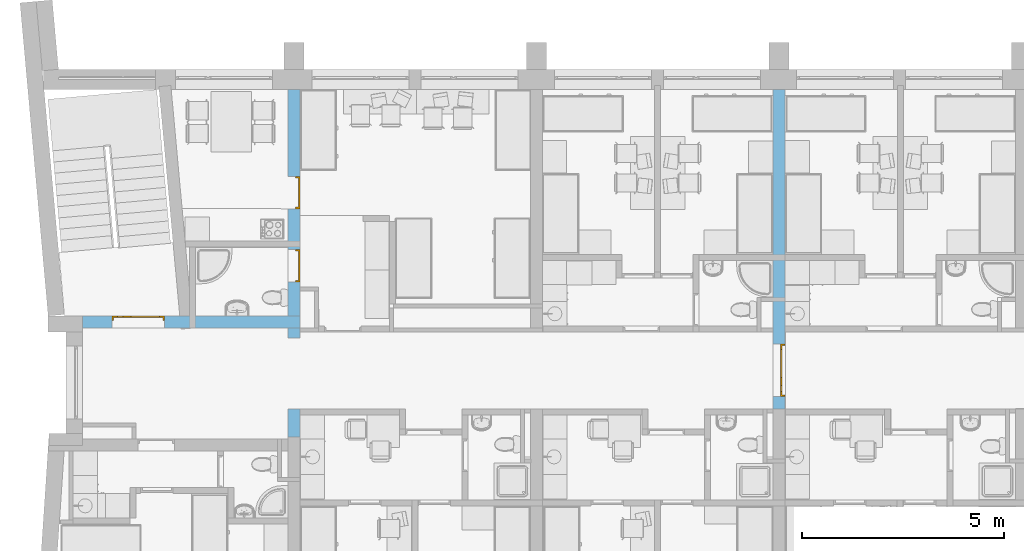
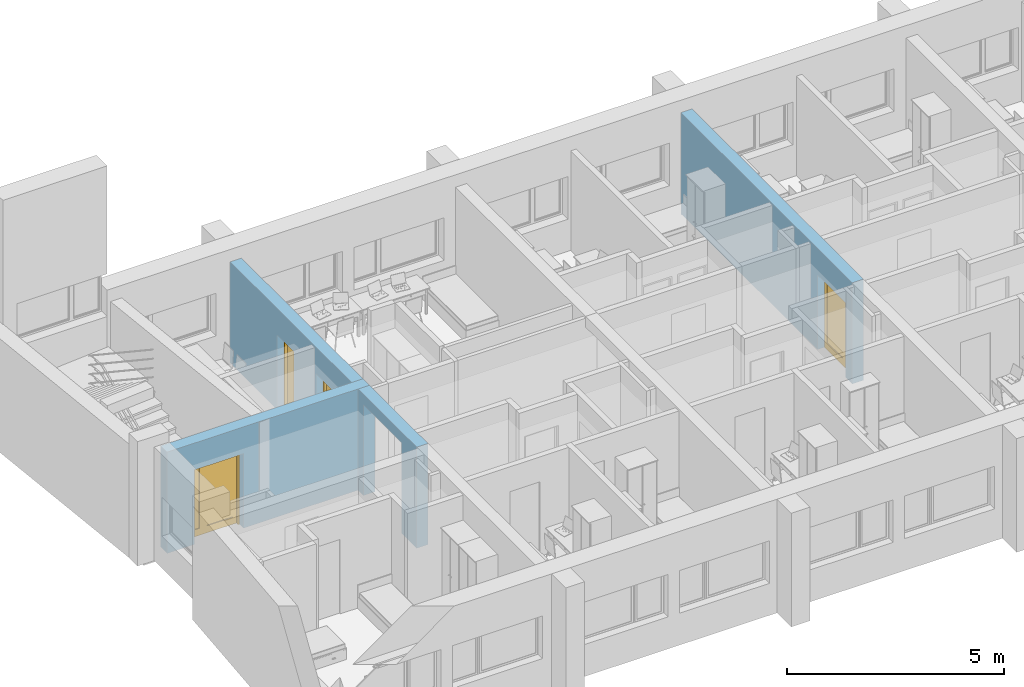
# One storey, part 22 of 165: 4 doors, 5 openings, plus 3 elements that do not belong to this part.
"""IFC2X3 building model written with IfcOpenShell, lengths in millimetres."""

from ifc_helpers import new_model, entity, si_unit, converted_unit, money_unit, direction, frame, origin_with_axes, place, context, subcontext, project, spatial, polyline, outline, extrude, open_shell, faceted_brep, surface_model, material, material_list, layer, layer_set, layer_usage, type_object, element, fill, save


model = new_model("IFC2X3")

# Units and contexts
model_context = context("Model", 3, precision=1e-05, world=origin_with_axes(), true_north=direction((0.0, 1.0)))
body_context = subcontext(model_context, "Body", "Model", "MODEL_VIEW")
ifc_project = project(units=[si_unit("LENGTHUNIT", "METRE", prefix="MILLI"), si_unit("AREAUNIT", "SQUARE_METRE"), si_unit("VOLUMEUNIT", "CUBIC_METRE"), converted_unit("PLANEANGLEUNIT", "DEGREE", entity("IfcPlaneAngleMeasure", 0.0174532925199), si_unit("PLANEANGLEUNIT", "RADIAN"), dimensions=[0, 0, 0, 0, 0, 0, 0]), si_unit("SOLIDANGLEUNIT", "STERADIAN"), money_unit("USD"), converted_unit("TIMEUNIT", "Year", entity("IfcTimeMeasure", 31556926.0), si_unit("TIMEUNIT", "SECOND"), dimensions=[0, 0, 0, 0, 0, 0, 0]), si_unit("MASSUNIT", "GRAM"), si_unit("THERMODYNAMICTEMPERATUREUNIT", "DEGREE_CELSIUS"), si_unit("LUMINOUSINTENSITYUNIT", "LUMEN")], contexts=[model_context])

# Site, building, storey
site_placement = place(None, origin_with_axes())
site = spatial("IfcSite", under=ifc_project, at=site_placement, Name="Site", CompositionType="ELEMENT")
building_placement = place(site_placement, origin_with_axes())
building = spatial("IfcBuilding", under=site, at=building_placement, Name="Building", CompositionType="ELEMENT")
storey_placement = place(building_placement, frame((0.0, 0.0, 6300.0), z_axis=(0.0, 0.0, 1.0), x_axis=(1.0, 0.0, 0.0)))
storey = spatial("IfcBuildingStorey", under=building, at=storey_placement, Name="4KORRUS", CompositionType="ELEMENT", Elevation=6300.0)

# Wall, opening, door
ifc_material_1 = material(Name="Olemasolevad seinad tellis, uus viimistlus")
ifc_layer = layer(ifc_material_1, 300.0, ventilated="UNKNOWN")
ifc_layer_set = layer_set([ifc_layer], Name="Olemasolevad seinad tellis, uus viimistlus  300")
ifc_layer_usage_1 = layer_usage(ifc_layer_set, "AXIS2", "POSITIVE", 0.0)
wall_type = type_object("IfcWallType", Name="Olemasolevad seinad tellis, uus viimistlus  300", PredefinedType="NOTDEFINED")
wall_1_placement = place(storey_placement, frame((-53377.938157, -11039.6041088, 0.0), z_axis=(0.0, 0.0, 1.0), x_axis=(1.0, 0.0, 0.0)))
wall_1 = element("IfcWallStandardCase", 1, at=wall_1_placement, inside=storey, type_object=wall_type, material=ifc_layer_usage_1, Name="KS1", ObjectType="KS1", context=body_context, shape_type="SweptSolid", body=[
    extrude(outline(polyline([(0.0, 0.0), (5387.64145368, 0.0), (5387.64145368, 300.0), (0.0, 300.0), (0.0, 0.0)])), origin_with_axes(), (0.0, 0.0, 1.0), 2850.0),
])
opening_1_placement = place(wall_1_placement, frame((1386.20809059, 0.0, 0.0), z_axis=(0.0, 0.0, 1.0), x_axis=(1.0, 0.0, 0.0)))
opening_1 = element("IfcOpeningElement", 2, at=opening_1_placement, cuts=wall_1, Name="SU4-2", context=body_context, shape_type="SweptSolid", body=[
    extrude(outline(polyline([(-650.0, -2100.0), (650.0, -2100.0), (650.0, 0.0), (-650.0, 0.0), (-650.0, -2100.0)])), frame((0.0, -300.0, 0.0), z_axis=(0.0, 1.0, 0.0), x_axis=(1.0, 0.0, 0.0)), (0.0, 0.0, 1.0), 900.0),
])
ifc_material_2 = material(Name="Background")
ifc_material_list = material_list([ifc_material_2])
door_style_1 = type_object("IfcDoorStyle", Name="Double Door Asymmetric 19", ConstructionType="NOTDEFINED", OperationType="DOUBLE_DOOR_SINGLE_SWING", ParameterTakesPrecedence=False, Sizeable=False)
door_1_placement = place(opening_1_placement, frame((-650.0, 0.0, 0.0), z_axis=(0.0, 0.0, 1.0), x_axis=(1.0, 0.0, 0.0)))
door_1 = element("IfcDoor", 3, at=door_1_placement, inside=storey, type_object=door_style_1, material=ifc_material_list, Name="SU4-2", ObjectType="Trepkoja uks", OverallHeight=2100.0, OverallWidth=1300.0, context=body_context, shape_type="SurfaceModel", body=[
    faceted_brep([(40.0, 260.0, 0.0), (40.0, 260.0, 2060.0), (40.0, 185.0, 2060.0), (40.0, 185.0, 0.0), (28.0, 260.0, 2060.0), (28.0, 260.0, 0.0), (28.0, 300.0, 2060.0), (0.0, 300.0, 2060.0), (0.0, 185.0, 2060.0), (0.0, 185.0, 0.0), (0.0, 300.0, 0.0), (28.0, 300.0, 0.0)], [[[0, 1, 2, 3]], [[4, 1, 0, 5]], [[4, 6, 7, 8, 2, 1]], [[2, 8, 9, 3]], [[5, 0, 3, 9, 10, 11]], [[6, 4, 5, 11]], [[6, 11, 10, 7]], [[9, 8, 7, 10]]]),
    faceted_brep([(1272.0, 260.0, 2060.0), (1260.0, 260.0, 2060.0), (1260.0, 185.0, 2060.0), (1300.0, 185.0, 2060.0), (1300.0, 300.0, 2060.0), (1272.0, 300.0, 2060.0), (1272.0, 260.0, 0.0), (1260.0, 260.0, 0.0), (1260.0, 185.0, 0.0), (1300.0, 185.0, 0.0), (1300.0, 300.0, 0.0), (1272.0, 300.0, 0.0)], [[[0, 1, 2, 3, 4, 5]], [[1, 0, 6, 7]], [[1, 7, 8, 2]], [[2, 8, 9, 3]], [[3, 9, 10, 4]], [[11, 5, 4, 10]], [[0, 5, 11, 6]], [[6, 11, 10, 9, 8, 7]]]),
    faceted_brep([(28.0, 300.0, 2072.0), (28.0, 300.0, 2060.0), (0.0, 300.0, 2060.0), (0.0, 300.0, 2100.0), (1300.0, 300.0, 2100.0), (1300.0, 300.0, 2060.0), (1272.0, 300.0, 2060.0), (1272.0, 300.0, 2072.0), (28.0, 260.0, 2072.0), (28.0, 260.0, 2060.0), (40.0, 260.0, 2060.0), (40.0, 185.0, 2060.0), (0.0, 185.0, 2060.0), (0.0, 185.0, 2100.0), (1300.0, 185.0, 2100.0), (1300.0, 185.0, 2060.0), (1272.0, 260.0, 2060.0), (1260.0, 185.0, 2060.0), (1260.0, 260.0, 2060.0), (1272.0, 260.0, 2072.0)], [[[0, 1, 2, 3, 4, 5, 6, 7]], [[1, 0, 8, 9]], [[9, 10, 11, 12, 2, 1]], [[12, 13, 3, 2]], [[13, 14, 4, 3]], [[14, 15, 5, 4]], [[16, 6, 5, 15, 17, 18]], [[7, 6, 16, 19]], [[0, 7, 19, 8]], [[16, 18, 10, 9, 8, 19]], [[10, 18, 17, 11]], [[15, 14, 13, 12, 11, 17]]]),
    faceted_brep([(1272.0, 300.0, 200.0), (1272.0, 260.0, 200.0), (1172.0, 260.0, 200.0), (1172.0, 300.0, 200.0), (1272.0, 300.0, 1972.0), (1272.0, 260.0, 1972.0), (1172.0, 260.0, 1972.0), (1172.0, 300.0, 1972.0)], [[[0, 1, 2, 3]], [[4, 5, 1, 0]], [[1, 5, 6, 2]], [[3, 2, 6, 7]], [[0, 3, 7, 4]], [[7, 6, 5, 4]]]),
    faceted_brep([(372.0, 300.0, 200.0), (372.0, 260.0, 200.0), (372.0, 260.0, 1972.0), (372.0, 300.0, 1972.0), (472.0, 300.0, 200.0), (472.0, 260.0, 200.0), (472.0, 260.0, 1972.0), (472.0, 300.0, 1972.0)], [[[0, 1, 2, 3]], [[4, 5, 1, 0]], [[1, 5, 6, 2]], [[3, 2, 6, 7]], [[0, 3, 7, 4]], [[7, 6, 5, 4]]]),
    faceted_brep([(1272.0, 300.0, 0.0), (1272.0, 260.0, 0.0), (372.0, 260.0, 0.0), (372.0, 300.0, 0.0), (1272.0, 300.0, 200.0), (1272.0, 260.0, 200.0), (1172.0, 260.0, 200.0), (472.0, 260.0, 200.0), (372.0, 260.0, 200.0), (372.0, 300.0, 200.0), (472.0, 300.0, 200.0), (1172.0, 300.0, 200.0)], [[[0, 1, 2, 3]], [[4, 5, 1, 0]], [[1, 5, 6, 7, 8, 2]], [[3, 2, 8, 9]], [[0, 3, 9, 10, 11, 4]], [[11, 6, 5, 4]], [[10, 7, 6, 11]], [[9, 8, 7, 10]]]),
    faceted_brep([(1272.0, 300.0, 2072.0), (1272.0, 260.0, 2072.0), (1272.0, 260.0, 1972.0), (1272.0, 300.0, 1972.0), (372.0, 300.0, 2072.0), (372.0, 260.0, 2072.0), (372.0, 260.0, 1972.0), (472.0, 260.0, 1972.0), (1172.0, 260.0, 1972.0), (1172.0, 300.0, 1972.0), (472.0, 300.0, 1972.0), (372.0, 300.0, 1972.0)], [[[0, 1, 2, 3]], [[4, 5, 1, 0]], [[1, 5, 6, 7, 8, 2]], [[3, 2, 8, 9]], [[0, 3, 9, 10, 11, 4]], [[11, 6, 5, 4]], [[10, 7, 6, 11]], [[9, 8, 7, 10]]]),
    surface_model("IfcShellBasedSurfaceModel", [(1172.0, 286.0, 200.0), (472.0, 286.0, 200.0), (472.0, 286.0, 1972.0), (1172.0, 286.0, 1972.0)], [open_shell([[[0, 1, 2, 3]]])]),
    surface_model("IfcShellBasedSurfaceModel", [(1172.0, 274.0, 200.0), (1172.0, 274.0, 1972.0), (472.0, 274.0, 1972.0), (472.0, 274.0, 200.0)], [open_shell([[[0, 1, 2, 3]]])]),
    faceted_brep([(28.0, 300.0, 200.0), (128.0, 300.0, 200.0), (128.0, 260.0, 200.0), (28.0, 260.0, 200.0), (28.0, 300.0, 1972.0), (128.0, 300.0, 1972.0), (128.0, 260.0, 1972.0), (28.0, 260.0, 1972.0)], [[[0, 1, 2, 3]], [[0, 4, 5, 1]], [[1, 5, 6, 2]], [[3, 2, 6, 7]], [[4, 0, 3, 7]], [[5, 4, 7, 6]]]),
    faceted_brep([(372.0, 300.0, 200.0), (372.0, 300.0, 1972.0), (372.0, 260.0, 1972.0), (372.0, 260.0, 200.0), (272.0, 300.0, 200.0), (272.0, 300.0, 1972.0), (272.0, 260.0, 1972.0), (272.0, 260.0, 200.0)], [[[0, 1, 2, 3]], [[0, 4, 5, 1]], [[1, 5, 6, 2]], [[3, 2, 6, 7]], [[4, 0, 3, 7]], [[5, 4, 7, 6]]]),
    faceted_brep([(28.0, 300.0, 0.0), (372.0, 300.0, 0.0), (372.0, 260.0, 0.0), (28.0, 260.0, 0.0), (28.0, 300.0, 200.0), (128.0, 300.0, 200.0), (272.0, 300.0, 200.0), (372.0, 300.0, 200.0), (372.0, 260.0, 200.0), (272.0, 260.0, 200.0), (128.0, 260.0, 200.0), (28.0, 260.0, 200.0)], [[[0, 1, 2, 3]], [[0, 4, 5, 6, 7, 1]], [[1, 7, 8, 2]], [[3, 2, 8, 9, 10, 11]], [[4, 0, 3, 11]], [[5, 4, 11, 10]], [[6, 5, 10, 9]], [[7, 6, 9, 8]]]),
    faceted_brep([(28.0, 300.0, 2072.0), (28.0, 300.0, 1972.0), (28.0, 260.0, 1972.0), (28.0, 260.0, 2072.0), (372.0, 300.0, 2072.0), (372.0, 300.0, 1972.0), (272.0, 300.0, 1972.0), (128.0, 300.0, 1972.0), (128.0, 260.0, 1972.0), (272.0, 260.0, 1972.0), (372.0, 260.0, 1972.0), (372.0, 260.0, 2072.0)], [[[0, 1, 2, 3]], [[0, 4, 5, 6, 7, 1]], [[1, 7, 8, 2]], [[3, 2, 8, 9, 10, 11]], [[4, 0, 3, 11]], [[5, 4, 11, 10]], [[6, 5, 10, 9]], [[7, 6, 9, 8]]]),
    surface_model("IfcShellBasedSurfaceModel", [(128.0, 286.0, 200.0), (128.0, 286.0, 1972.0), (272.0, 286.0, 1972.0), (272.0, 286.0, 200.0)], [open_shell([[[0, 1, 2, 3]]])]),
    surface_model("IfcShellBasedSurfaceModel", [(128.0, 274.0, 200.0), (272.0, 274.0, 200.0), (272.0, 274.0, 1972.0), (128.0, 274.0, 1972.0)], [open_shell([[[0, 1, 2, 3]]])]),
])
fill(opening_1, door_1)

# Wall, openings, doors
ifc_layer_usage_2 = layer_usage(ifc_layer_set, "AXIS2", "POSITIVE", 0.0)
wall_2_placement = place(storey_placement, frame((-47990.2967033, -13739.2398994, 0.0), z_axis=(0.0, 0.0, 1.0), x_axis=(0.0, 1.0, 0.0)))
wall_2 = element("IfcWallStandardCase", 4, at=wall_2_placement, inside=storey, type_object=wall_type, material=ifc_layer_usage_2, Name="KS1", ObjectType="KS1", context=body_context, shape_type="SweptSolid", body=[
    extrude(outline(polyline([(0.0, 0.0), (8599.63579061, 0.0), (8599.63579061, 300.0), (0.0, 300.0), (0.0, 0.0)])), origin_with_axes(), (0.0, 0.0, 1.0), 2850.0),
])
opening_2_placement = place(wall_2_placement, frame((1574.63579061, 0.0, 0.0), z_axis=(0.0, 0.0, 1.0), x_axis=(1.0, 0.0, 0.0)))
element("IfcOpeningElement", 5, at=opening_2_placement, cuts=wall_2, Name="DOO - 001", context=body_context, shape_type="SweptSolid", body=[
    extrude(outline(polyline([(-875.0, 0.0), (-875.0, -2550.0), (875.0, -2550.0), (875.0, 0.0), (-875.0, 0.0)])), frame((0.0, 300.0, 0.0), z_axis=(0.0, 1.0, 0.0), x_axis=(1.0, 0.0, 0.0)), (0.0, 0.0, 1.0), 300.0),
    extrude(outline(polyline([(-875.0, 2550.0), (-875.0, 0.0), (875.0, 0.0), (875.0, 2550.0), (-875.0, 2550.0)])), frame((0.0, 300.0, 0.0), z_axis=(0.0, -1.0, 0.0), x_axis=(1.0, 0.0, 0.0)), (0.0, 0.0, 1.0), 300.0),
])
opening_3_placement = place(wall_2_placement, frame((6049.36903267, 0.0, 0.0), z_axis=(0.0, 0.0, 1.0), x_axis=(1.0, 0.0, 0.0)))
opening_3 = element("IfcOpeningElement", 6, at=opening_3_placement, cuts=wall_2, Name="SU3-4", context=body_context, shape_type="SweptSolid", body=[
    extrude(outline(polyline([(-400.0, -2100.0), (400.0, -2100.0), (400.0, 0.0), (-400.0, 0.0), (-400.0, -2100.0)])), frame((0.0, 300.0, 0.0), z_axis=(0.0, -1.0, 0.0), x_axis=(-1.0, 0.0, 0.0)), (0.0, 0.0, 1.0), 900.0),
])
opening_4_placement = place(wall_2_placement, frame((4239.50270273, 0.0, 0.0), z_axis=(0.0, 0.0, 1.0), x_axis=(1.0, 0.0, 0.0)))
opening_4 = element("IfcOpeningElement", 7, at=opening_4_placement, cuts=wall_2, Name="SU3-3", context=body_context, shape_type="SweptSolid", body=[
    extrude(outline(polyline([(-400.0, -2100.0), (400.0, -2100.0), (400.0, 0.0), (-400.0, 0.0), (-400.0, -2100.0)])), frame((0.0, 300.0, 0.0), z_axis=(0.0, 1.0, 0.0), x_axis=(1.0, 0.0, 0.0)), (0.0, 0.0, -1.0), 900.0),
])
door_style_2 = type_object("IfcDoorStyle", Name="Door 19", ConstructionType="NOTDEFINED", OperationType="SINGLE_SWING_RIGHT", ParameterTakesPrecedence=False, Sizeable=False)
door_2_placement = place(opening_3_placement, frame((400.0, 0.0, 0.0), z_axis=(0.0, 0.0, 1.0), x_axis=(-1.0, 0.0, 0.0)))
door_2 = element("IfcDoor", 8, at=door_2_placement, inside=storey, type_object=door_style_2, material=ifc_material_list, Name="SU3-4", ObjectType="Toa uks", OverallHeight=2100.0, OverallWidth=800.0, context=body_context, shape_type="Brep", body=[
    faceted_brep([(40.0, -40.0, 0.0), (40.0, -40.0, 2060.0), (40.0, -115.0, 2060.0), (40.0, -115.0, 0.0), (28.0, -40.0, 2060.0), (28.0, -40.0, 0.0), (28.0, 0.0, 2060.0), (0.0, 0.0, 2060.0), (0.0, -115.0, 2060.0), (0.0, -115.0, 0.0), (0.0, 0.0, 0.0), (28.0, 0.0, 0.0)], [[[0, 1, 2, 3]], [[4, 1, 0, 5]], [[4, 6, 7, 8, 2, 1]], [[2, 8, 9, 3]], [[5, 0, 3, 9, 10, 11]], [[6, 4, 5, 11]], [[6, 11, 10, 7]], [[9, 8, 7, 10]]]),
    faceted_brep([(772.0, -40.0, 2060.0), (760.0, -40.0, 2060.0), (760.0, -115.0, 2060.0), (800.0, -115.0, 2060.0), (800.0, 0.0, 2060.0), (772.0, 0.0, 2060.0), (772.0, -40.0, 0.0), (760.0, -40.0, 0.0), (760.0, -115.0, 0.0), (800.0, -115.0, 0.0), (800.0, 0.0, 0.0), (772.0, 0.0, 0.0)], [[[0, 1, 2, 3, 4, 5]], [[1, 0, 6, 7]], [[1, 7, 8, 2]], [[2, 8, 9, 3]], [[3, 9, 10, 4]], [[11, 5, 4, 10]], [[0, 5, 11, 6]], [[6, 11, 10, 9, 8, 7]]]),
    faceted_brep([(28.0, 0.0, 2072.0), (28.0, 0.0, 2060.0), (0.0, 0.0, 2060.0), (0.0, 0.0, 2100.0), (800.0, 0.0, 2100.0), (800.0, 0.0, 2060.0), (772.0, 0.0, 2060.0), (772.0, 0.0, 2072.0), (28.0, -40.0, 2072.0), (28.0, -40.0, 2060.0), (40.0, -40.0, 2060.0), (40.0, -115.0, 2060.0), (0.0, -115.0, 2060.0), (0.0, -115.0, 2100.0), (800.0, -115.0, 2100.0), (800.0, -115.0, 2060.0), (772.0, -40.0, 2060.0), (760.0, -115.0, 2060.0), (760.0, -40.0, 2060.0), (772.0, -40.0, 2072.0)], [[[0, 1, 2, 3, 4, 5, 6, 7]], [[1, 0, 8, 9]], [[9, 10, 11, 12, 2, 1]], [[12, 13, 3, 2]], [[13, 14, 4, 3]], [[14, 15, 5, 4]], [[16, 6, 5, 15, 17, 18]], [[7, 6, 16, 19]], [[0, 7, 19, 8]], [[16, 18, 10, 9, 8, 19]], [[10, 18, 17, 11]], [[15, 14, 13, 12, 11, 17]]]),
    faceted_brep([(772.0, 0.0, 0.0), (772.0, -40.0, 0.0), (28.0, -40.0, 0.0), (28.0, 0.0, 0.0), (772.0, 0.0, 2072.0), (772.0, -40.0, 2072.0), (28.0, -40.0, 2072.0), (28.0, 0.0, 2072.0)], [[[0, 1, 2, 3]], [[4, 5, 1, 0]], [[1, 5, 6, 2]], [[3, 2, 6, 7]], [[0, 3, 7, 4]], [[7, 6, 5, 4]]]),
])
fill(opening_3, door_2)
door_style_3 = type_object("IfcDoorStyle", Name="Door 19", ConstructionType="NOTDEFINED", OperationType="SINGLE_SWING_LEFT", ParameterTakesPrecedence=False, Sizeable=False)
door_3_placement = place(opening_4_placement, frame((400.0, 0.0, 0.0), z_axis=(0.0, 0.0, 1.0), x_axis=(-1.0, 0.0, 0.0)))
door_3 = element("IfcDoor", 9, at=door_3_placement, inside=storey, type_object=door_style_3, material=ifc_material_list, Name="SU3-3", ObjectType="WC-uks", OverallHeight=2100.0, OverallWidth=800.0, context=body_context, shape_type="Brep", body=[
    faceted_brep([(760.0, -40.0, 0.0), (760.0, -115.0, 0.0), (760.0, -115.0, 2060.0), (760.0, -40.0, 2060.0), (772.0, -40.0, 0.0), (772.0, 0.0, 0.0), (800.0, 0.0, 0.0), (800.0, -115.0, 0.0), (800.0, -115.0, 2060.0), (772.0, -40.0, 2060.0), (800.0, 0.0, 2060.0), (772.0, 0.0, 2060.0)], [[[0, 1, 2, 3]], [[4, 5, 6, 7, 1, 0]], [[2, 1, 7, 8]], [[9, 3, 2, 8, 10, 11]], [[9, 4, 0, 3]], [[11, 5, 4, 9]], [[11, 10, 6, 5]], [[7, 6, 10, 8]]]),
    faceted_brep([(28.0, -40.0, 2060.0), (28.0, 0.0, 2060.0), (0.0, 0.0, 2060.0), (0.0, -115.0, 2060.0), (40.0, -115.0, 2060.0), (40.0, -40.0, 2060.0), (28.0, -40.0, 0.0), (28.0, 0.0, 0.0), (0.0, 0.0, 0.0), (0.0, -115.0, 0.0), (40.0, -115.0, 0.0), (40.0, -40.0, 0.0)], [[[0, 1, 2, 3, 4, 5]], [[0, 6, 7, 1]], [[7, 8, 2, 1]], [[3, 2, 8, 9]], [[4, 3, 9, 10]], [[5, 4, 10, 11]], [[5, 11, 6, 0]], [[6, 11, 10, 9, 8, 7]]]),
    faceted_brep([(772.0, 0.0, 2072.0), (28.0, 0.0, 2072.0), (28.0, 0.0, 2060.0), (0.0, 0.0, 2060.0), (0.0, 0.0, 2100.0), (800.0, 0.0, 2100.0), (800.0, 0.0, 2060.0), (772.0, 0.0, 2060.0), (772.0, -40.0, 2072.0), (28.0, -40.0, 2072.0), (28.0, -40.0, 2060.0), (40.0, -40.0, 2060.0), (40.0, -115.0, 2060.0), (0.0, -115.0, 2060.0), (0.0, -115.0, 2100.0), (800.0, -115.0, 2100.0), (800.0, -115.0, 2060.0), (772.0, -40.0, 2060.0), (760.0, -115.0, 2060.0), (760.0, -40.0, 2060.0)], [[[0, 1, 2, 3, 4, 5, 6, 7]], [[0, 8, 9, 1]], [[1, 9, 10, 2]], [[10, 11, 12, 13, 3, 2]], [[14, 4, 3, 13]], [[15, 5, 4, 14]], [[16, 6, 5, 15]], [[17, 7, 6, 16, 18, 19]], [[7, 17, 8, 0]], [[10, 9, 8, 17, 19, 11]], [[19, 18, 12, 11]], [[13, 12, 18, 16, 15, 14]]]),
    faceted_brep([(28.0, 0.0, 0.0), (772.0, 0.0, 0.0), (772.0, -40.0, 0.0), (28.0, -40.0, 0.0), (28.0, 0.0, 2072.0), (772.0, 0.0, 2072.0), (772.0, -40.0, 2072.0), (28.0, -40.0, 2072.0)], [[[0, 1, 2, 3]], [[0, 4, 5, 1]], [[1, 5, 6, 2]], [[3, 2, 6, 7]], [[4, 0, 3, 7]], [[5, 4, 7, 6]]]),
])
fill(opening_4, door_3)

# Wall, opening, door
ifc_layer_usage_3 = layer_usage(ifc_layer_set, "AXIS2", "POSITIVE", 0.0)
wall_3_placement = place(storey_placement, frame((-35990.2967033, -13039.3705726, 0.0), z_axis=(0.0, 0.0, 1.0), x_axis=(0.0, 1.0, 0.0)))
wall_3 = element("IfcWallStandardCase", 10, at=wall_3_placement, inside=storey, type_object=wall_type, material=ifc_layer_usage_3, Name="KS1", ObjectType="KS1", context=body_context, shape_type="SweptSolid", body=[
    extrude(outline(polyline([(0.0, 0.0), (7899.7664638, 0.0), (7899.7664638, 300.0), (0.0, 300.0), (0.0, 0.0)])), origin_with_axes(), (0.0, 0.0, 1.0), 2850.0),
])
opening_5_placement = place(wall_3_placement, frame((952.280323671, 0.0, 0.0), z_axis=(0.0, 0.0, 1.0), x_axis=(1.0, 0.0, 0.0)))
opening_5 = element("IfcOpeningElement", 11, at=opening_5_placement, cuts=wall_3, Name="SU4-22", context=body_context, shape_type="SweptSolid", body=[
    extrude(outline(polyline([(-650.0, 0.0), (650.0, 0.0), (650.0, 2100.0), (-650.0, 2100.0), (-650.0, 0.0)])), frame((0.0, 300.0, 0.0), z_axis=(0.0, -1.0, 0.0), x_axis=(1.0, 0.0, 0.0)), (0.0, 0.0, 1.0), 900.0),
])
door_style_4 = type_object("IfcDoorStyle", Name="Double Door Asymmetric 19", ConstructionType="NOTDEFINED", OperationType="DOUBLE_DOOR_SINGLE_SWING", ParameterTakesPrecedence=False, Sizeable=False)
door_4_placement = place(opening_5_placement, frame((-650.0, 0.0, 0.0), z_axis=(0.0, 0.0, 1.0), x_axis=(1.0, 0.0, 0.0)))
door_4 = element("IfcDoor", 12, at=door_4_placement, inside=storey, type_object=door_style_4, material=ifc_material_list, Name="SU4-22", ObjectType="Trepkoja uks", OverallHeight=2100.0, OverallWidth=1300.0, context=body_context, shape_type="SurfaceModel", body=[
    faceted_brep([(40.0, 75.0, 0.0), (40.0, 75.0, 2060.0), (40.0, 0.0, 2060.0), (40.0, 0.0, 0.0), (28.0, 75.0, 2060.0), (28.0, 75.0, 0.0), (28.0, 115.0, 2060.0), (0.0, 115.0, 2060.0), (0.0, 0.0, 2060.0), (0.0, 0.0, 0.0), (0.0, 115.0, 0.0), (28.0, 115.0, 0.0)], [[[0, 1, 2, 3]], [[4, 1, 0, 5]], [[4, 6, 7, 8, 2, 1]], [[2, 8, 9, 3]], [[5, 0, 3, 9, 10, 11]], [[6, 4, 5, 11]], [[6, 11, 10, 7]], [[9, 8, 7, 10]]]),
    faceted_brep([(1272.0, 75.0, 2060.0), (1260.0, 75.0, 2060.0), (1260.0, 0.0, 2060.0), (1300.0, 0.0, 2060.0), (1300.0, 115.0, 2060.0), (1272.0, 115.0, 2060.0), (1272.0, 75.0, 0.0), (1260.0, 75.0, 0.0), (1260.0, 0.0, 0.0), (1300.0, 0.0, 0.0), (1300.0, 115.0, 0.0), (1272.0, 115.0, 0.0)], [[[0, 1, 2, 3, 4, 5]], [[1, 0, 6, 7]], [[1, 7, 8, 2]], [[2, 8, 9, 3]], [[3, 9, 10, 4]], [[11, 5, 4, 10]], [[0, 5, 11, 6]], [[6, 11, 10, 9, 8, 7]]]),
    faceted_brep([(28.0, 115.0, 2072.0), (28.0, 115.0, 2060.0), (0.0, 115.0, 2060.0), (0.0, 115.0, 2100.0), (1300.0, 115.0, 2100.0), (1300.0, 115.0, 2060.0), (1272.0, 115.0, 2060.0), (1272.0, 115.0, 2072.0), (28.0, 75.0, 2072.0), (28.0, 75.0, 2060.0), (40.0, 75.0, 2060.0), (40.0, 0.0, 2060.0), (0.0, 0.0, 2060.0), (0.0, 0.0, 2100.0), (1300.0, 0.0, 2100.0), (1300.0, 0.0, 2060.0), (1272.0, 75.0, 2060.0), (1260.0, 0.0, 2060.0), (1260.0, 75.0, 2060.0), (1272.0, 75.0, 2072.0)], [[[0, 1, 2, 3, 4, 5, 6, 7]], [[1, 0, 8, 9]], [[9, 10, 11, 12, 2, 1]], [[12, 13, 3, 2]], [[13, 14, 4, 3]], [[14, 15, 5, 4]], [[16, 6, 5, 15, 17, 18]], [[7, 6, 16, 19]], [[0, 7, 19, 8]], [[16, 18, 10, 9, 8, 19]], [[10, 18, 17, 11]], [[15, 14, 13, 12, 11, 17]]]),
    faceted_brep([(1272.0, 115.0, 200.0), (1272.0, 75.0, 200.0), (1172.0, 75.0, 200.0), (1172.0, 115.0, 200.0), (1272.0, 115.0, 1972.0), (1272.0, 75.0, 1972.0), (1172.0, 75.0, 1972.0), (1172.0, 115.0, 1972.0)], [[[0, 1, 2, 3]], [[4, 5, 1, 0]], [[1, 5, 6, 2]], [[3, 2, 6, 7]], [[0, 3, 7, 4]], [[7, 6, 5, 4]]]),
    faceted_brep([(372.0, 115.0, 200.0), (372.0, 75.0, 200.0), (372.0, 75.0, 1972.0), (372.0, 115.0, 1972.0), (472.0, 115.0, 200.0), (472.0, 75.0, 200.0), (472.0, 75.0, 1972.0), (472.0, 115.0, 1972.0)], [[[0, 1, 2, 3]], [[4, 5, 1, 0]], [[1, 5, 6, 2]], [[3, 2, 6, 7]], [[0, 3, 7, 4]], [[7, 6, 5, 4]]]),
    faceted_brep([(1272.0, 115.0, 0.0), (1272.0, 75.0, 0.0), (372.0, 75.0, 0.0), (372.0, 115.0, 0.0), (1272.0, 115.0, 200.0), (1272.0, 75.0, 200.0), (1172.0, 75.0, 200.0), (472.0, 75.0, 200.0), (372.0, 75.0, 200.0), (372.0, 115.0, 200.0), (472.0, 115.0, 200.0), (1172.0, 115.0, 200.0)], [[[0, 1, 2, 3]], [[4, 5, 1, 0]], [[1, 5, 6, 7, 8, 2]], [[3, 2, 8, 9]], [[0, 3, 9, 10, 11, 4]], [[11, 6, 5, 4]], [[10, 7, 6, 11]], [[9, 8, 7, 10]]]),
    faceted_brep([(1272.0, 115.0, 2072.0), (1272.0, 75.0, 2072.0), (1272.0, 75.0, 1972.0), (1272.0, 115.0, 1972.0), (372.0, 115.0, 2072.0), (372.0, 75.0, 2072.0), (372.0, 75.0, 1972.0), (472.0, 75.0, 1972.0), (1172.0, 75.0, 1972.0), (1172.0, 115.0, 1972.0), (472.0, 115.0, 1972.0), (372.0, 115.0, 1972.0)], [[[0, 1, 2, 3]], [[4, 5, 1, 0]], [[1, 5, 6, 7, 8, 2]], [[3, 2, 8, 9]], [[0, 3, 9, 10, 11, 4]], [[11, 6, 5, 4]], [[10, 7, 6, 11]], [[9, 8, 7, 10]]]),
    surface_model("IfcShellBasedSurfaceModel", [(1172.0, 101.0, 200.0), (472.0, 101.0, 200.0), (472.0, 101.0, 1972.0), (1172.0, 101.0, 1972.0)], [open_shell([[[0, 1, 2, 3]]])]),
    surface_model("IfcShellBasedSurfaceModel", [(1172.0, 89.0, 200.0), (1172.0, 89.0, 1972.0), (472.0, 89.0, 1972.0), (472.0, 89.0, 200.0)], [open_shell([[[0, 1, 2, 3]]])]),
    faceted_brep([(28.0, 115.0, 200.0), (128.0, 115.0, 200.0), (128.0, 75.0, 200.0), (28.0, 75.0, 200.0), (28.0, 115.0, 1972.0), (128.0, 115.0, 1972.0), (128.0, 75.0, 1972.0), (28.0, 75.0, 1972.0)], [[[0, 1, 2, 3]], [[0, 4, 5, 1]], [[1, 5, 6, 2]], [[3, 2, 6, 7]], [[4, 0, 3, 7]], [[5, 4, 7, 6]]]),
    faceted_brep([(372.0, 115.0, 200.0), (372.0, 115.0, 1972.0), (372.0, 75.0, 1972.0), (372.0, 75.0, 200.0), (272.0, 115.0, 200.0), (272.0, 115.0, 1972.0), (272.0, 75.0, 1972.0), (272.0, 75.0, 200.0)], [[[0, 1, 2, 3]], [[0, 4, 5, 1]], [[1, 5, 6, 2]], [[3, 2, 6, 7]], [[4, 0, 3, 7]], [[5, 4, 7, 6]]]),
    faceted_brep([(28.0, 115.0, 0.0), (372.0, 115.0, 0.0), (372.0, 75.0, 0.0), (28.0, 75.0, 0.0), (28.0, 115.0, 200.0), (128.0, 115.0, 200.0), (272.0, 115.0, 200.0), (372.0, 115.0, 200.0), (372.0, 75.0, 200.0), (272.0, 75.0, 200.0), (128.0, 75.0, 200.0), (28.0, 75.0, 200.0)], [[[0, 1, 2, 3]], [[0, 4, 5, 6, 7, 1]], [[1, 7, 8, 2]], [[3, 2, 8, 9, 10, 11]], [[4, 0, 3, 11]], [[5, 4, 11, 10]], [[6, 5, 10, 9]], [[7, 6, 9, 8]]]),
    faceted_brep([(28.0, 115.0, 2072.0), (28.0, 115.0, 1972.0), (28.0, 75.0, 1972.0), (28.0, 75.0, 2072.0), (372.0, 115.0, 2072.0), (372.0, 115.0, 1972.0), (272.0, 115.0, 1972.0), (128.0, 115.0, 1972.0), (128.0, 75.0, 1972.0), (272.0, 75.0, 1972.0), (372.0, 75.0, 1972.0), (372.0, 75.0, 2072.0)], [[[0, 1, 2, 3]], [[0, 4, 5, 6, 7, 1]], [[1, 7, 8, 2]], [[3, 2, 8, 9, 10, 11]], [[4, 0, 3, 11]], [[5, 4, 11, 10]], [[6, 5, 10, 9]], [[7, 6, 9, 8]]]),
    surface_model("IfcShellBasedSurfaceModel", [(128.0, 101.0, 200.0), (128.0, 101.0, 1972.0), (272.0, 101.0, 1972.0), (272.0, 101.0, 200.0)], [open_shell([[[0, 1, 2, 3]]])]),
    surface_model("IfcShellBasedSurfaceModel", [(128.0, 89.0, 200.0), (272.0, 89.0, 200.0), (272.0, 89.0, 1972.0), (128.0, 89.0, 1972.0)], [open_shell([[[0, 1, 2, 3]]])]),
])
fill(opening_5, door_4)

save(model, "model.ifc")
